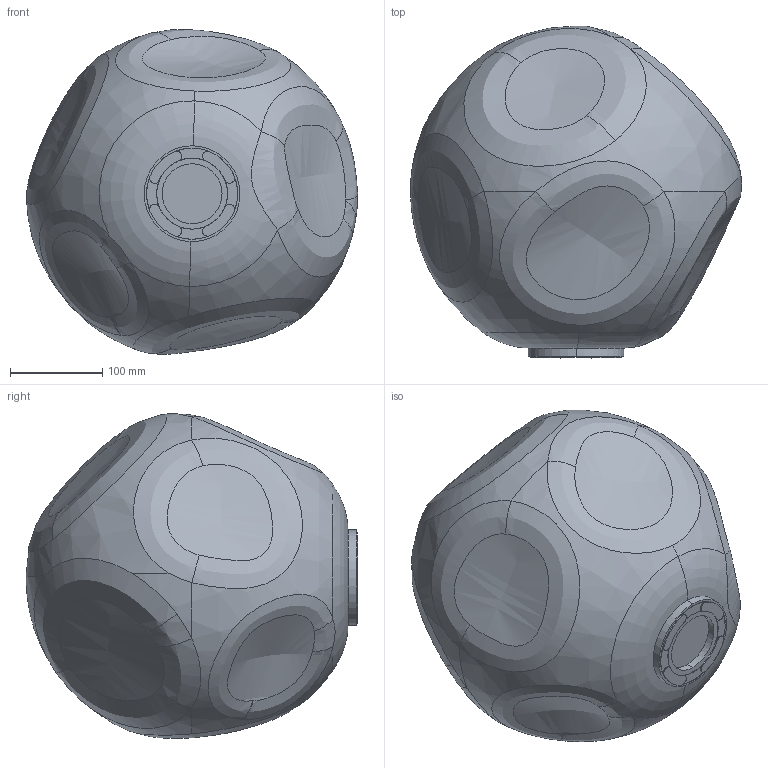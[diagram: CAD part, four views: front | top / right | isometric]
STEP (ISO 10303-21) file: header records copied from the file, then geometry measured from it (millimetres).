
FILE_DESCRIPTION (( 'STEP AP203' ), '1' );
FILE_NAME ('325_GRANDE_C_PL_3D.STEP', '2023-12-20T13:09:05', ( '' ), ( '' ), 'SwSTEP 2.0', 'SolidWorks 2023', '' );
FILE_SCHEMA (( 'CONFIG_CONTROL_DESIGN' ));
Length unit declared in the file: millimetre
Products named in the file (1): 325_GRANDE_C_PL_3D
Bounding box: 359.63 x 360.5 x 352.86 mm (x, y, z)
Volume: 818844.4 mm3; surface area: 794065.3 mm2
Topology: 2 solids, 2 shells, 120 faces, 303 edges, 191 vertices
Faces by surface type: bspline 68, cylinder 22, plane 14, torus 10, sphere 6
Entity records: 90713 total; most frequent: CARTESIAN_POINT 88215, ORIENTED_EDGE 606, DIRECTION 348, EDGE_CURVE 303, VERTEX_POINT 191, B_SPLINE_CURVE_WITH_KNOTS 167, AXIS2_PLACEMENT_3D 159, EDGE_LOOP 124
